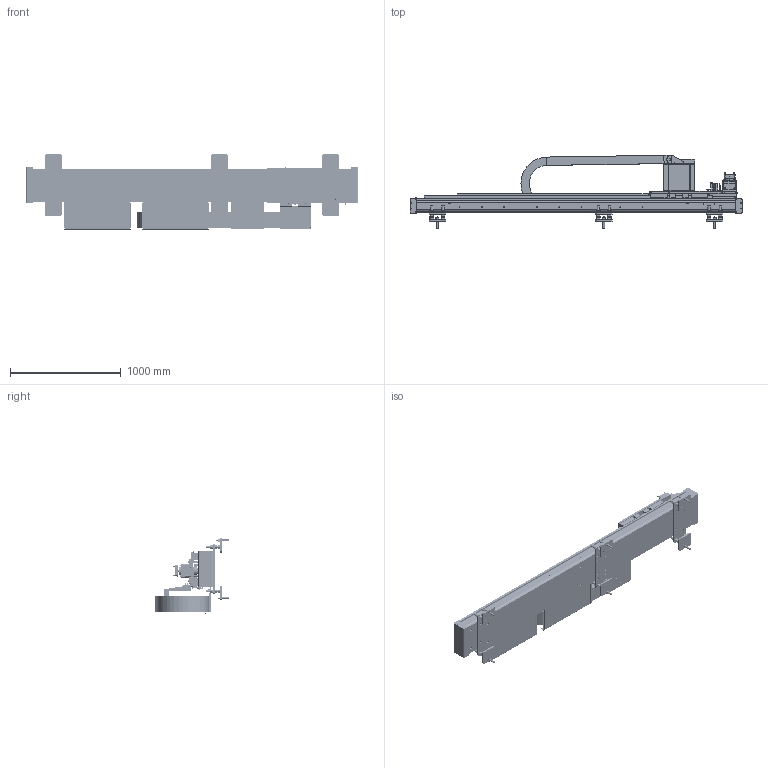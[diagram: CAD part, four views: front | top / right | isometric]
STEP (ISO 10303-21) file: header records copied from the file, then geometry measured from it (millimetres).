
FILE_DESCRIPTION (( 'STEP AP214' ), '1' );
FILE_NAME ('306535-200-1(TM1020_2000TR)_ŽÐŠOŒü‚¯.STEP', '2024-05-14T01:48:18', ( '' ), ( '' ), 'SwSTEP 2.0', 'SolidWorks 2021', '' );
FILE_SCHEMA (( 'AUTOMOTIVE_DESIGN' ));
Length unit declared in the file: millimetre
Products named in the file (3): 306535-100-0_可動部 Assy_社外向け; 306535-200-1(TM1020_2000TR)_固定部; 306535-200-1(TM1020_2000TR)_社外向け
Assembly tree (2 placements, depth 2):
  306535-200-1(TM1020_2000TR)_社外向け
    306535-200-1(TM1020_2000TR)_固定部
    306535-100-0_可動部 Assy_社外向け
Bounding box: 2994 x 662 x 682.5 mm (x, y, z)
Surface area: 10179333.4 mm2 (no closed solid volume)
Topology: 0 solids, 414 shells, 3227 faces, 11173 edges, 8167 vertices
Faces by surface type: plane 1837, cylinder 994, cone 272, bspline 102, torus 20, sphere 2
Entity records: 162972 total; most frequent: CARTESIAN_POINT 29589, DIRECTION 21123, ORIENTED_EDGE 17013, EDGE_CURVE 11152, VERTEX_POINT 8167, AXIS2_PLACEMENT_3D 7570, VECTOR 5983, LINE 5983
